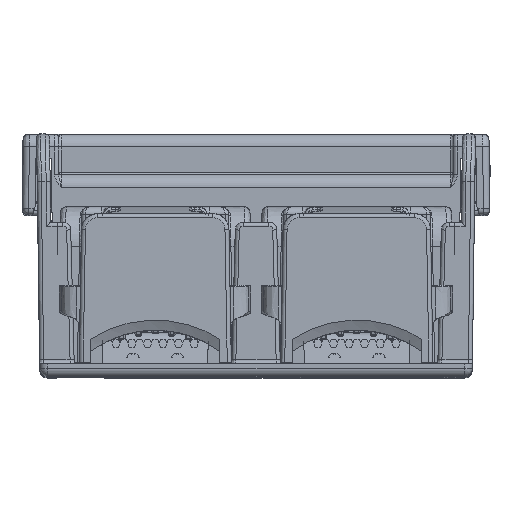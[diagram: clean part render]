
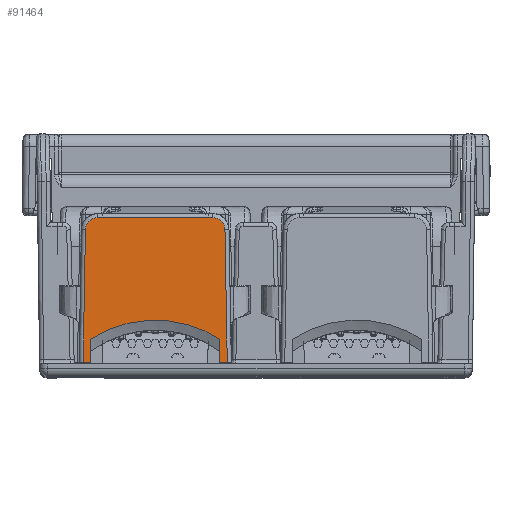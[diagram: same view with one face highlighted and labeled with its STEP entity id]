
A CAD part, top view. The second image highlights one B-rep face of the part: STEP entity #91464.
In plain terms, the highlighted planar face has unit normal (0, 0.013, 1).
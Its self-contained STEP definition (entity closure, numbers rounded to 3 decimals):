
#20490=DIRECTION('',(0.,1.,-0.013));
#20491=VECTOR('',#20490,2.818);
#20492=CARTESIAN_POINT('',(-20.45,1.8,51.85));
#20493=LINE('',#20492,#20491);
#20598=CARTESIAN_POINT('',(-21.35,1.8,51.85));
#20612=CARTESIAN_POINT('',(-3.55,1.8,51.85));
#23431=DIRECTION('',(0.,-1.,0.013));
#23432=VECTOR('',#23431,2.818);
#23433=CARTESIAN_POINT('',(-4.45,4.618,51.813));
#23434=LINE('',#23433,#23432);
#23545=DIRECTION('',(-1.,0.,0.));
#23546=VECTOR('',#23545,14.229);
#23547=CARTESIAN_POINT('',(-5.336,19.631,
51.617));
#23548=LINE('',#23547,#23546);
#23549=CARTESIAN_POINT('',(-3.835,18.13,
51.636));
#23550=CARTESIAN_POINT('',(-3.837,18.248,
51.635));
#23551=CARTESIAN_POINT('',(-3.867,18.473,
51.632));
#23552=CARTESIAN_POINT('',(-3.978,18.783,
51.628));
#23553=CARTESIAN_POINT('',(-4.155,19.065,
51.624));
#23554=CARTESIAN_POINT('',(-4.381,19.297,
51.621));
#23555=CARTESIAN_POINT('',(-4.661,19.482,
51.619));
#23556=CARTESIAN_POINT('',(-4.987,19.603,
51.617));
#23557=CARTESIAN_POINT('',(-5.216,19.631,
51.617));
#23558=CARTESIAN_POINT('',(-5.336,19.631,
51.617));
#23560=DIRECTION('',(-0.017,1.,-0.013));
#23561=VECTOR('',#23560,16.334);
#23562=CARTESIAN_POINT('',(-3.55,1.8,51.85));
#23563=LINE('',#23562,#23561);
#23564=DIRECTION('',(-1.,0.,0.));
#23565=VECTOR('',#23564,0.9);
#23566=CARTESIAN_POINT('',(-3.55,1.8,51.85));
#23567=LINE('',#23566,#23565);
#23568=CARTESIAN_POINT('',(-20.45,4.618,51.813));
#23569=CARTESIAN_POINT('',(-20.411,4.643,
51.813));
#23570=CARTESIAN_POINT('',(-19.705,5.095,
51.807));
#23571=CARTESIAN_POINT('',(-18.257,5.855,
51.797));
#23572=CARTESIAN_POINT('',(-15.998,6.61,
51.787));
#23573=CARTESIAN_POINT('',(-13.646,6.993,
51.782));
#23574=CARTESIAN_POINT('',(-11.264,6.993,
51.782));
#23575=CARTESIAN_POINT('',(-8.912,6.612,
51.787));
#23576=CARTESIAN_POINT('',(-6.652,5.859,
51.797));
#23577=CARTESIAN_POINT('',(-5.201,5.098,
51.807));
#23578=CARTESIAN_POINT('',(-4.492,4.645,
51.813));
#23579=CARTESIAN_POINT('',(-4.45,4.618,51.813));
#23581=DIRECTION('',(-1.,0.,0.));
#23582=VECTOR('',#23581,0.9);
#23583=CARTESIAN_POINT('',(-20.45,1.8,51.85));
#23584=LINE('',#23583,#23582);
#23585=DIRECTION('',(-0.017,-1.,0.013));
#23586=VECTOR('',#23585,16.334);
#23587=CARTESIAN_POINT('',(-21.065,18.13,
51.636));
#23588=LINE('',#23587,#23586);
#23589=CARTESIAN_POINT('',(-19.564,19.631,
51.617));
#23590=CARTESIAN_POINT('',(-19.684,19.631,
51.617));
#23591=CARTESIAN_POINT('',(-19.914,19.602,
51.617));
#23592=CARTESIAN_POINT('',(-20.232,19.486,
51.618));
#23593=CARTESIAN_POINT('',(-20.524,19.295,
51.621));
#23594=CARTESIAN_POINT('',(-20.763,19.042,
51.624));
#23595=CARTESIAN_POINT('',(-20.924,18.773,
51.628));
#23596=CARTESIAN_POINT('',(-21.028,18.489,
51.632));
#23597=CARTESIAN_POINT('',(-21.063,18.255,
51.635));
#23598=CARTESIAN_POINT('',(-21.065,18.13,
51.636));
#49743=VERTEX_POINT('',#23568);
#49744=VERTEX_POINT('',#23579);
#49745=CARTESIAN_POINT('',(-4.45,1.8,51.85));
#49746=VERTEX_POINT('',#49745);
#49747=CARTESIAN_POINT('',(-20.45,1.8,51.85));
#49748=VERTEX_POINT('',#49747);
#49821=CARTESIAN_POINT('',(-5.336,19.631,
51.617));
#49822=CARTESIAN_POINT('',(-19.564,19.631,
51.617));
#49823=VERTEX_POINT('',#49821);
#49824=VERTEX_POINT('',#49822);
#49829=VERTEX_POINT('',#20598);
#49833=CARTESIAN_POINT('',(-21.065,18.13,
51.636));
#49834=VERTEX_POINT('',#49833);
#49835=VERTEX_POINT('',#23549);
#49838=VERTEX_POINT('',#20612);
#91442=CARTESIAN_POINT('',(-25.6,1.8,51.85));
#91443=DIRECTION('',(0.,0.013,1.));
#91444=DIRECTION('',(-1.,0.,0.));
#91445=AXIS2_PLACEMENT_3D('',#91442,#91443,#91444);
#91446=PLANE('',#91445);
#91448=ORIENTED_EDGE('',*,*,#91447,.F.);
#91450=ORIENTED_EDGE('',*,*,#91449,.F.);
#91452=ORIENTED_EDGE('',*,*,#91451,.F.);
#91453=ORIENTED_EDGE('',*,*,#87456,.T.);
#91454=ORIENTED_EDGE('',*,*,#91300,.F.);
#91455=ORIENTED_EDGE('',*,*,#91436,.F.);
#91456=ORIENTED_EDGE('',*,*,#87291,.F.);
#91457=ORIENTED_EDGE('',*,*,#87441,.T.);
#91459=ORIENTED_EDGE('',*,*,#91458,.F.);
#91461=ORIENTED_EDGE('',*,*,#91460,.F.);
#91462=EDGE_LOOP('',(#91448,#91450,#91452,#91453,#91454,#91455,#91456,#91457,
#91459,#91461));
#91463=FACE_OUTER_BOUND('',#91462,.F.);
#91464=ADVANCED_FACE('',(#91463),#91446,.T.);
#23559=B_SPLINE_CURVE_WITH_KNOTS('',3,(#23549,#23550,#23551,#23552,#23553,
#23554,#23555,#23556,#23557,#23558),.UNSPECIFIED.,.F.,.F.,(4,1,1,1,1,1,1,4),(
0.,0.143,0.286,0.429,0.571,
0.714,0.857,1.),.UNSPECIFIED.);
#23580=B_SPLINE_CURVE_WITH_KNOTS('',3,(#23568,#23569,#23570,#23571,#23572,
#23573,#23574,#23575,#23576,#23577,#23578,#23579),.UNSPECIFIED.,.F.,.F.,(4,1,1,
1,1,1,1,1,1,4),(0.,0.008,0.149,0.289,
0.429,0.57,0.71,0.851,
0.991,1.),.UNSPECIFIED.);
#23599=B_SPLINE_CURVE_WITH_KNOTS('',3,(#23589,#23590,#23591,#23592,#23593,
#23594,#23595,#23596,#23597,#23598),.UNSPECIFIED.,.F.,.F.,(4,1,1,1,1,1,1,4),(
0.,0.143,0.286,0.429,0.571,
0.714,0.857,1.),.UNSPECIFIED.);
#87291=EDGE_CURVE('',#49748,#49743,#20493,.T.);
#87441=EDGE_CURVE('',#49748,#49829,#23584,.T.);
#87456=EDGE_CURVE('',#49838,#49746,#23567,.T.);
#91300=EDGE_CURVE('',#49744,#49746,#23434,.T.);
#91436=EDGE_CURVE('',#49743,#49744,#23580,.T.);
#91447=EDGE_CURVE('',#49823,#49824,#23548,.T.);
#91449=EDGE_CURVE('',#49835,#49823,#23559,.T.);
#91451=EDGE_CURVE('',#49838,#49835,#23563,.T.);
#91458=EDGE_CURVE('',#49834,#49829,#23588,.T.);
#91460=EDGE_CURVE('',#49824,#49834,#23599,.T.);
